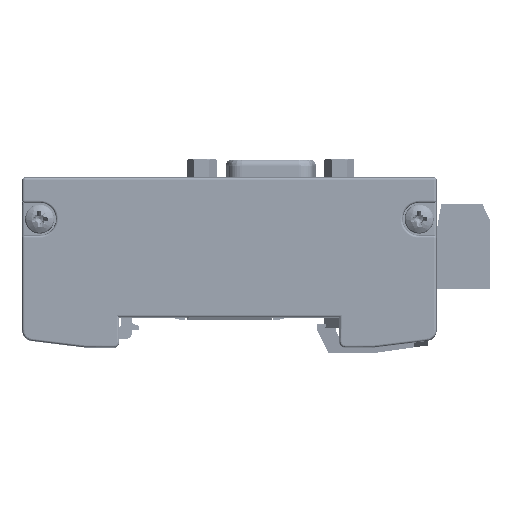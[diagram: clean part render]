
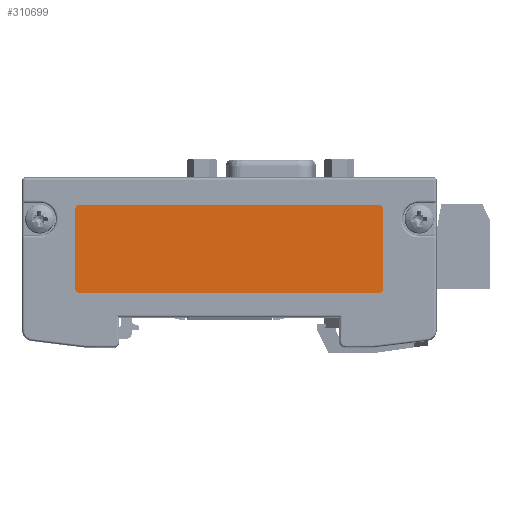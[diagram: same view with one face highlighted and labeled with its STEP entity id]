
A CAD part, left-side view. The second image highlights one B-rep face of the part: STEP entity #310699.
In plain terms, the highlighted planar face has unit normal (-1, 0, 0) as drawn and (0, 0, -1) by its records, which use the part's own axes.
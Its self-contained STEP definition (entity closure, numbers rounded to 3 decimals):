
#9034 = EDGE_CURVE ( 'NONE', #285594, #59660, #79402, .T. ) ;
#34224 = CARTESIAN_POINT ( 'NONE',  ( -5., 27.25, -3.9 ) ) ;
#55581 = VERTEX_POINT ( 'NONE', #860643 ) ;
#59660 = VERTEX_POINT ( 'NONE', #676337 ) ;
#79402 = LINE ( 'NONE', #98138, #805267 ) ;
#84150 = ORIENTED_EDGE ( 'NONE', *, *, #308873, .T. ) ;
#89583 = CARTESIAN_POINT ( 'NONE',  ( -5.75, -27.25, -3.9 ) ) ;
#98138 = CARTESIAN_POINT ( 'NONE',  ( -5., 28., -3.9 ) ) ;
#119992 = EDGE_LOOP ( 'NONE', ( #166215, #490714, #870573, #84150, #902361, #125683, #1066764, #216477 ) ) ;
#125683 = ORIENTED_EDGE ( 'NONE', *, *, #1193944, .T. ) ;
#130789 = CARTESIAN_POINT ( 'NONE',  ( -21., -27.25, -3.9 ) ) ;
#132100 = EDGE_CURVE ( 'NONE', #326991, #337081, #440432, .T. ) ;
#166215 = ORIENTED_EDGE ( 'NONE', *, *, #132100, .T. ) ;
#166302 = CARTESIAN_POINT ( 'NONE',  ( -5.75, 27.25, -3.9 ) ) ;
#170956 = VECTOR ( 'NONE', #431858, 1000. ) ;
#171320 = VERTEX_POINT ( 'NONE', #1028845 ) ;
#206103 = CARTESIAN_POINT ( 'NONE',  ( -20.25, -28., -3.9 ) ) ;
#216477 = ORIENTED_EDGE ( 'NONE', *, *, #240272, .T. ) ;
#233904 = CARTESIAN_POINT ( 'NONE',  ( 0., 0., -3.9 ) ) ;
#240272 = EDGE_CURVE ( 'NONE', #307740, #326991, #713239, .T. ) ;
#249014 = DIRECTION ( 'NONE',  ( -1., 0., 0. ) ) ;
#285594 = VERTEX_POINT ( 'NONE', #34224 ) ;
#307584 = DIRECTION ( 'NONE',  ( 1., 0., 0. ) ) ;
#307740 = VERTEX_POINT ( 'NONE', #206103 ) ;
#308873 = EDGE_CURVE ( 'NONE', #55581, #285594, #1120818, .T. ) ;
#310699 = ADVANCED_FACE ( 'NONE', ( #354035 ), #728876, .T. ) ;
#325547 = VERTEX_POINT ( 'NONE', #461471 ) ;
#326991 = VERTEX_POINT ( 'NONE', #130789 ) ;
#337081 = VERTEX_POINT ( 'NONE', #345423 ) ;
#345423 = CARTESIAN_POINT ( 'NONE',  ( -21., 27.25, -3.9 ) ) ;
#354035 = FACE_OUTER_BOUND ( 'NONE', #119992, .T. ) ;
#356628 = DIRECTION ( 'NONE',  ( 0., 0., -1. ) ) ;
#369327 = DIRECTION ( 'NONE',  ( 0., 0., -1. ) ) ;
#402703 = CARTESIAN_POINT ( 'NONE',  ( -21., 28., -3.9 ) ) ;
#427947 = DIRECTION ( 'NONE',  ( 0., 1., 0. ) ) ;
#431858 = DIRECTION ( 'NONE',  ( -1., 0., 0. ) ) ;
#440432 = LINE ( 'NONE', #554448, #595554 ) ;
#444436 = CARTESIAN_POINT ( 'NONE',  ( -5., -28., -3.9 ) ) ;
#455457 = DIRECTION ( 'NONE',  ( -1., 0., 0. ) ) ;
#461471 = CARTESIAN_POINT ( 'NONE',  ( -20.25, 28., -3.9 ) ) ;
#490714 = ORIENTED_EDGE ( 'NONE', *, *, #718241, .T. ) ;
#502758 = CIRCLE ( 'NONE', #563543, 0.75 ) ;
#553419 = DIRECTION ( 'NONE',  ( -1., 0., 0. ) ) ;
#554448 = CARTESIAN_POINT ( 'NONE',  ( -21., -28., -3.9 ) ) ;
#563543 = AXIS2_PLACEMENT_3D ( 'NONE', #684045, #982175, #1071056 ) ;
#572032 = DIRECTION ( 'NONE',  ( -1., 0., 0. ) ) ;
#572277 = CARTESIAN_POINT ( 'NONE',  ( -20.25, -27.25, -3.9 ) ) ;
#573898 = AXIS2_PLACEMENT_3D ( 'NONE', #166302, #356628, #249014 ) ;
#595554 = VECTOR ( 'NONE', #427947, 1000. ) ;
#675936 = LINE ( 'NONE', #402703, #762163 ) ;
#676337 = CARTESIAN_POINT ( 'NONE',  ( -5., -27.25, -3.9 ) ) ;
#684045 = CARTESIAN_POINT ( 'NONE',  ( -20.25, 27.25, -3.9 ) ) ;
#711136 = EDGE_CURVE ( 'NONE', #171320, #307740, #920513, .T. ) ;
#713239 = CIRCLE ( 'NONE', #1158743, 0.75 ) ;
#718241 = EDGE_CURVE ( 'NONE', #337081, #325547, #502758, .T. ) ;
#721472 = AXIS2_PLACEMENT_3D ( 'NONE', #233904, #741301, #455457 ) ;
#728876 = PLANE ( 'NONE',  #721472 ) ;
#741301 = DIRECTION ( 'NONE',  ( 0., 0., -1. ) ) ;
#762163 = VECTOR ( 'NONE', #307584, 1000. ) ;
#762606 = DIRECTION ( 'NONE',  ( 0., 0., -1. ) ) ;
#805267 = VECTOR ( 'NONE', #1252953, 1000. ) ;
#860643 = CARTESIAN_POINT ( 'NONE',  ( -5.75, 28., -3.9 ) ) ;
#870573 = ORIENTED_EDGE ( 'NONE', *, *, #1203112, .T. ) ;
#902361 = ORIENTED_EDGE ( 'NONE', *, *, #9034, .T. ) ;
#902793 = CIRCLE ( 'NONE', #922669, 0.75 ) ;
#920513 = LINE ( 'NONE', #444436, #170956 ) ;
#922669 = AXIS2_PLACEMENT_3D ( 'NONE', #89583, #762606, #572032 ) ;
#982175 = DIRECTION ( 'NONE',  ( 0., 0., -1. ) ) ;
#1028845 = CARTESIAN_POINT ( 'NONE',  ( -5.75, -28., -3.9 ) ) ;
#1066764 = ORIENTED_EDGE ( 'NONE', *, *, #711136, .T. ) ;
#1071056 = DIRECTION ( 'NONE',  ( -1., 0., 0. ) ) ;
#1120818 = CIRCLE ( 'NONE', #573898, 0.75 ) ;
#1158743 = AXIS2_PLACEMENT_3D ( 'NONE', #572277, #369327, #553419 ) ;
#1193944 = EDGE_CURVE ( 'NONE', #59660, #171320, #902793, .T. ) ;
#1203112 = EDGE_CURVE ( 'NONE', #325547, #55581, #675936, .T. ) ;
#1252953 = DIRECTION ( 'NONE',  ( 0., -1., 0. ) ) ;
